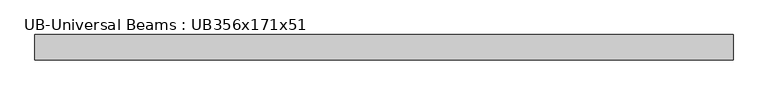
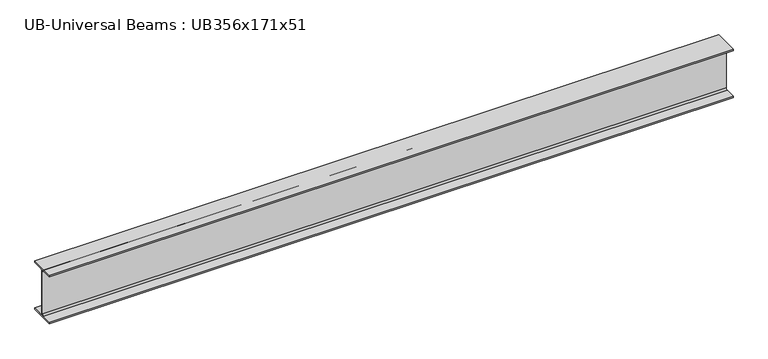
"""IFC4 building model written with IfcOpenShell, lengths in millimetres: beam geometry, UB-Universal Beams : UB356x171x51."""

from ifc_helpers import new_model, si_unit, point, frame, frame_2d, origin, place, context, project, spatial, polyline, circle_curve, trimmed, segment, composite_curve, outline, extrude, source, transform, mapped, element, save


def ub_universal_beams_ub356x171x51_8094f821(model_context):
    return source(origin(), model_context, "Body", "SweptSolid", [
        extrude(outline(composite_curve([segment(polyline([(85.75, -166.0), (85.75, -177.5), (-85.75, -177.5), (-85.75, -166.0), (-13.9, -166.0)]), True, "CONTINUOUS"), segment(trimmed(circle_curve(frame_2d((-13.9, -155.8)), 10.2), [point((-13.9, -166.0))], [point((-3.7, -155.8))], True, "CARTESIAN"), True, "CONTINUOUS"), segment(polyline([(-3.7, -155.8), (-3.7, 155.8)]), True, "CONTINUOUS"), segment(trimmed(circle_curve(frame_2d((-13.9, 155.8)), 10.2), [point((-3.7, 155.8))], [point((-13.9, 166.0))], True, "CARTESIAN"), True, "CONTINUOUS"), segment(polyline([(-13.9, 166.0), (-85.75, 166.0), (-85.75, 177.5), (85.75, 177.5), (85.75, 166.0), (13.9, 166.0)]), True, "CONTINUOUS"), segment(trimmed(circle_curve(frame_2d((13.9, 155.8)), 10.2), [point((13.9, 166.0))], [point((3.7, 155.8))], True, "CARTESIAN"), True, "CONTINUOUS"), segment(polyline([(3.7, 155.8), (3.7, -155.8)]), True, "CONTINUOUS"), segment(trimmed(circle_curve(frame_2d((13.9, -155.8)), 10.2), [point((3.7, -155.8))], [point((13.9, -166.0))], True, "CARTESIAN"), True, "CONTINUOUS"), segment(polyline([(13.9, -166.0), (85.75, -166.0)]), True, "CONTINUOUS")], self_intersect=False)), frame((-2362.1, 0.0, 0.0), z_axis=(1.0, 0.0, 0.0), x_axis=(0.0, 1.0, 0.0)), (0.0, 0.0, 1.0), 4724.2),
    ])


if __name__ == "__main__":
    model = new_model("IFC4")
    model_context = context("Model", 3, world=origin())
    ifc_project = project(units=[si_unit("LENGTHUNIT", "METRE", prefix="MILLI")], contexts=[model_context])
    site = spatial("IfcSite", under=ifc_project)
    building = spatial("IfcBuilding", under=site)
    placement = place(None, origin())
    ub_universal_beams_ub356x171x51_shape = ub_universal_beams_ub356x171x51_8094f821(model_context)
    element("IfcBeam", 1, ObjectType="UB-Universal Beams : UB356x171x51", at=placement, inside=building, context=model_context, shape_type="MappedRepresentation", body=[
        mapped(ub_universal_beams_ub356x171x51_shape, transform((0.0, 0.0, 0.0), x_axis=(1.0, 0.0, 0.0), y_axis=(0.0, 1.0, 0.0), z_axis=(0.0, 0.0, 1.0))),
    ])
    save(model, "model.ifc")
